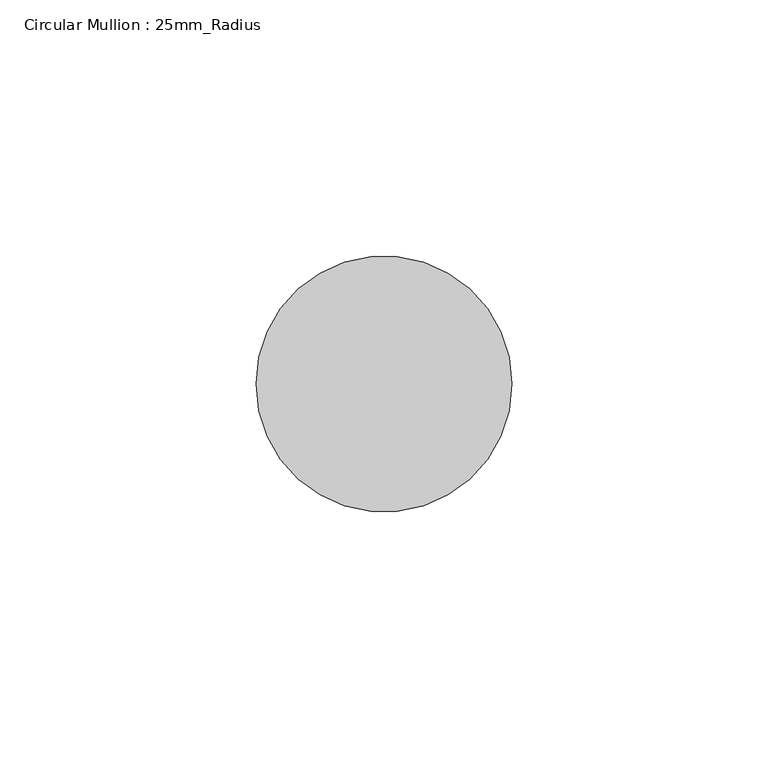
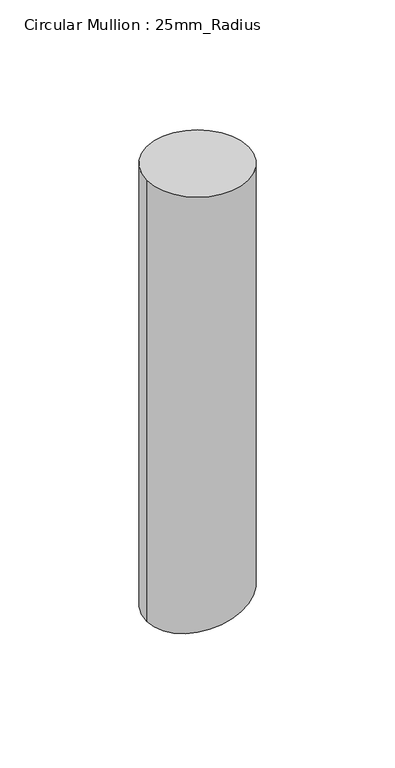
"""IFC4 building model written with IfcOpenShell, lengths in millimetres: member geometry, Circular Mullion : 25mm_Radius."""

from ifc_helpers import new_model, si_unit, frame, origin, place, context, project, spatial, circle_curve, ellipse_curve, source, transform, mapped, element, save
from ifc_brep_helpers import plane_surface, cylinder_surface, advanced_brep


def circular_mullion_25mm_radius_7935091e(model_context):
    return source(origin(), model_context, "Body", "AdvancedBrep", [
        advanced_brep(
        [(-50.0, 0.0, 0.0), (0.0, 0.0, 0.0), (0.0, 0.0, -216.8586204), (-50.0, 0.0, -229.0990934)],
        [
            (0, 1, circle_curve(frame((-25.0, 0.0, 0.0), z_axis=(0.0, 0.0, -1.0), x_axis=(1.0, 0.0, 0.0)), 25.0)),
            (1, 2),
            (2, 3, ellipse_curve(frame((-25.0, 0.0, -222.9788569), z_axis=(-0.23778763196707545, 0.0, 0.971317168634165), x_axis=(0.971317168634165, 0.0, 0.23778763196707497)), 25.7382458, 25.0)),
            (3, 0),
            (1, 0, circle_curve(frame((-25.0, 0.0, 0.0), z_axis=(0.0, 0.0, -1.0), x_axis=(1.0, 0.0, 0.0)), 25.0)),
            (3, 2, ellipse_curve(frame((-25.0, 0.0, -222.9788569), z_axis=(-0.23778763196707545, 0.0, 0.971317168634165), x_axis=(0.971317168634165, 0.0, 0.23778763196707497)), 25.7382458, 25.0)),
        ],
        [
            cylinder_surface(frame((-25.0, 0.0, 0.0), z_axis=(0.0, 0.0, 1.0), x_axis=(1.0, 0.0, 0.0)), 25.0),
            plane_surface(frame((-304.8, 0.0, 0.0), z_axis=(0.0, 0.0, 1.0), x_axis=(0.0, 1.0, 0.0))),
            plane_surface(frame((0.0, 304.8, -216.8586204), z_axis=(0.23778763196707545, 0.0, -0.971317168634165), x_axis=(0.971317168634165, 0.0, 0.23778763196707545))),
        ],
        [
            (0, [[1, 2, 3, 4]]),
            (0, [[5, -4, 6, -2]]),
            (1, [[-1, -5]]),
            (2, [[-6, -3]]),
        ],
    ),
    ])


if __name__ == "__main__":
    model = new_model("IFC4")
    model_context = context("Model", 3, world=origin())
    ifc_project = project(units=[si_unit("LENGTHUNIT", "METRE", prefix="MILLI")], contexts=[model_context])
    site = spatial("IfcSite", under=ifc_project)
    building = spatial("IfcBuilding", under=site)
    placement = place(None, origin())
    circular_mullion_25mm_radius_shape = circular_mullion_25mm_radius_7935091e(model_context)
    element("IfcMember", 1, ObjectType="Circular Mullion : 25mm_Radius", at=placement, inside=building, context=model_context, shape_type="MappedRepresentation", body=[
        mapped(circular_mullion_25mm_radius_shape, transform((0.0, 0.0, 0.0), x_axis=(1.0, 0.0, 0.0), y_axis=(0.0, 1.0, 0.0), z_axis=(0.0, 0.0, 1.0))),
    ])
    save(model, "model.ifc")
